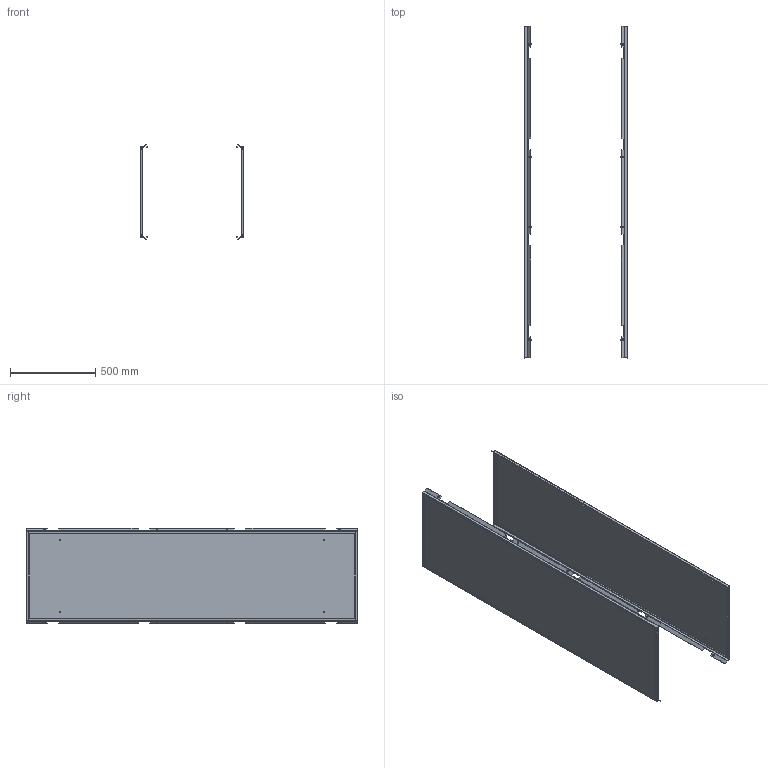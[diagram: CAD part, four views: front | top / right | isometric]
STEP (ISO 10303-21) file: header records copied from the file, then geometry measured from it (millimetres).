
FILE_DESCRIPTION (( 'STEP AP203' ), '1' );
FILE_NAME ('MA1.200.060620.20.00 AleSta-PS206 Áîêîâûå ïàíåëè AleSta 2000x600 (2 øò).STEP', '2025-02-19T14:39:50', ( '' ), ( '' ), 'SwSTEP 2.0', 'SolidWorks 2021', '' );
FILE_SCHEMA (( 'CONFIG_CONTROL_DESIGN' ));
Length unit declared in the file: millimetre
Products named in the file (6): Óïëîòíèòåëü ïàíåëè íèæíåé_¯® ¢ëá®â¥ 600å2000; MA1.200.060620.21.00 Ñòåíêà áîêîâàÿ 600x2000_2000å600; MA1.200.060620.21.01 Ïîëîòíî ñòåíêè áîêîâîé 600õ2000_2000å600; Âèíò ñàìîíàðåçàþùèé ñ ïîòàéíîé ãîëîâêîé Ì5x16 DIN 7500 M TORX, êëàññ ïðî÷íîñòè 8.8, îöèíêîâàííàÿ ñòàëü_Œ5å16; MA1.200.060620.20.00 AleSta-PS206  Áîêîâûå ïàíåëè AleSta 2000x600 (2 øò); Øïèëüêà Ì6õ12_˜¯¨«ìª  Œ6å12
Assembly tree (24 placements, depth 3):
  MA1.200.060620.20.00 AleSta-PS206  Áîêîâûå ïàíåëè AleSta 2000x600 (2 øò)
    MA1.200.060620.21.00 Ñòåíêà áîêîâàÿ 600x2000_2000å600  x2
      MA1.200.060620.21.01 Ïîëîòíî ñòåíêè áîêîâîé 600õ2000_2000å600
      Øïèëüêà Ì6õ12_˜¯¨«ìª  Œ6å12
      Óïëîòíèòåëü ïàíåëè íèæíåé_¯® ¢ëá®â¥ 600å2000
    Âèíò ñàìîíàðåçàþùèé ñ ïîòàéíîé ãîëîâêîé Ì5x16 DIN 7500 M TORX, êëàññ ïðî÷íîñòè 8.8, îöèíêîâàííàÿ ñòàëü_Œ5å16  x16
Bounding box: 606 x 1945 x 560.73 mm (x, y, z)
Volume: 3007860.6 mm3; surface area: 5096645.5 mm2
Topology: 28 solids, 28 shells, 1116 faces, 2788 edges, 1784 vertices
Faces by surface type: cylinder 636, plane 368, cone 80, bspline 16, torus 16
Entity records: 8629 total; most frequent: CARTESIAN_POINT 1714, DIRECTION 1281, ORIENTED_EDGE 1158, EDGE_CURVE 579, AXIS2_PLACEMENT_3D 475, VERTEX_POINT 360, VECTOR 331, LINE 331
